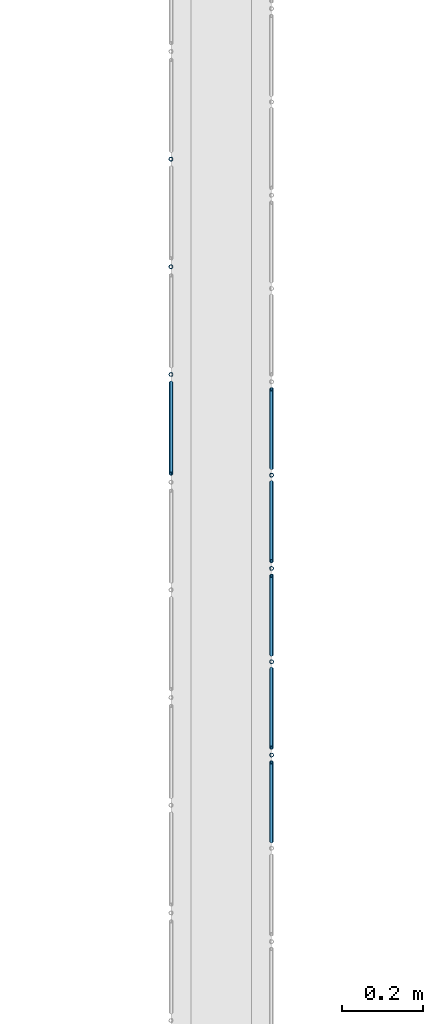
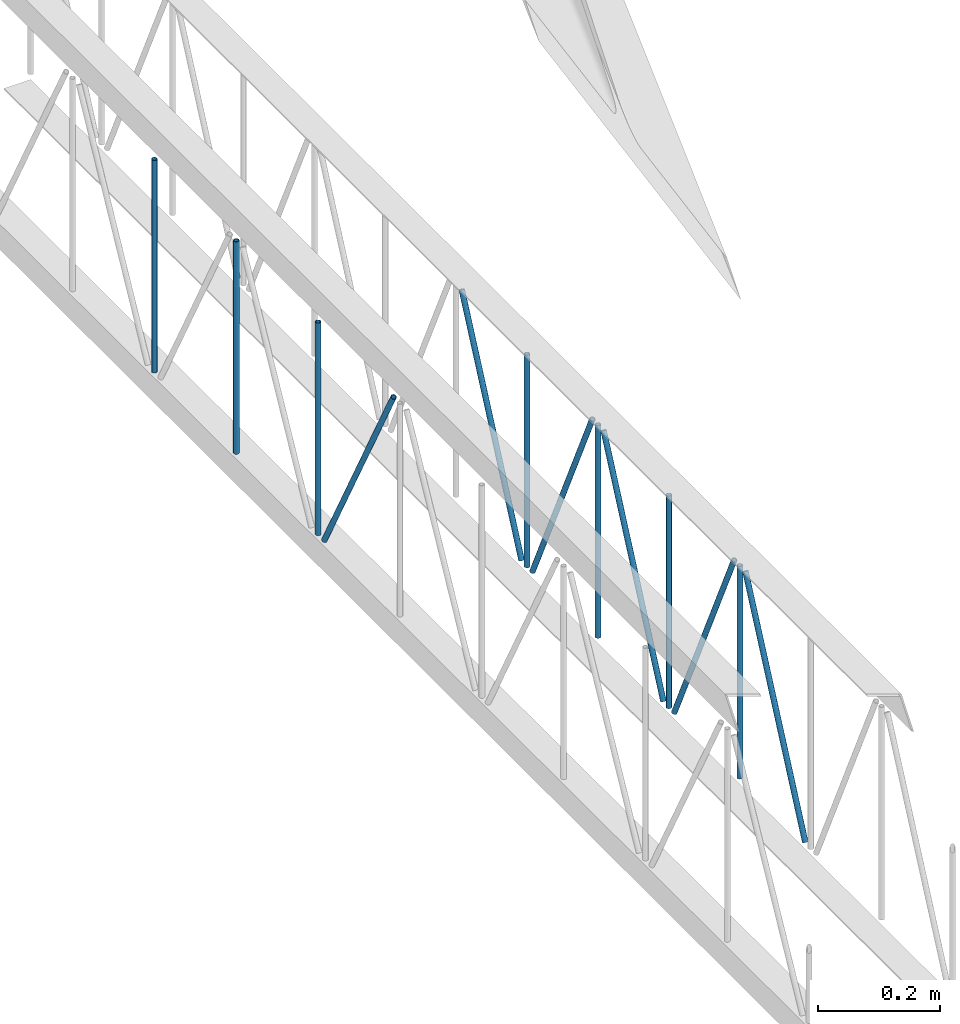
# One storey, part 15 of 153: 13 members, 2 elements without a shape of their own.
"""IFC4 building model written with IfcOpenShell, lengths in metres."""

from ifc_helpers import new_model, entity, si_unit, converted_unit, derived_unit, direction, frame, origin, place, context, subcontext, project, spatial, arc, indexed_curve, outline, extrude, source, transform, mapped, material, type_object, type_shapes, element, aggregate, save


model = new_model("IFC4")

# Units and contexts
model_context = context("Model", 3, precision=1e-05, world=origin(), true_north=direction((6.123031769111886e-17, 1.0)))
body_context = subcontext(model_context, "Body", "Model", "MODEL_VIEW")
ifc_project = project(units=[si_unit("LENGTHUNIT", "METRE"), si_unit("AREAUNIT", "SQUARE_METRE"), si_unit("VOLUMEUNIT", "CUBIC_METRE"), converted_unit("PLANEANGLEUNIT", "DEGREE", entity("IfcRatioMeasure", 0.017453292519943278), si_unit("PLANEANGLEUNIT", "RADIAN"), dimensions=[0, 0, 0, 0, 0, 0, 0]), si_unit("MASSUNIT", "GRAM", prefix="KILO"), derived_unit("MASSDENSITYUNIT", [(si_unit("MASSUNIT", "GRAM", prefix="KILO"), 1), (si_unit("LENGTHUNIT", "METRE"), -3)]), derived_unit("MOMENTOFINERTIAUNIT", [(si_unit("LENGTHUNIT", "METRE"), 4)]), si_unit("TIMEUNIT", "SECOND"), si_unit("FREQUENCYUNIT", "HERTZ"), si_unit("THERMODYNAMICTEMPERATUREUNIT", "DEGREE_CELSIUS"), derived_unit("THERMALTRANSMITTANCEUNIT", [(si_unit("MASSUNIT", "GRAM", prefix="KILO"), 1), (si_unit("THERMODYNAMICTEMPERATUREUNIT", "KELVIN"), -1), (si_unit("TIMEUNIT", "SECOND"), -3)]), derived_unit("VOLUMETRICFLOWRATEUNIT", [(si_unit("LENGTHUNIT", "METRE"), 3), (si_unit("TIMEUNIT", "SECOND"), -1)]), derived_unit("MASSFLOWRATEUNIT", [(si_unit("MASSUNIT", "GRAM", prefix="KILO"), 1), (si_unit("TIMEUNIT", "SECOND"), -1)]), derived_unit("ROTATIONALFREQUENCYUNIT", [(si_unit("TIMEUNIT", "SECOND"), -1)]), si_unit("ELECTRICCURRENTUNIT", "AMPERE"), si_unit("ELECTRICVOLTAGEUNIT", "VOLT"), si_unit("POWERUNIT", "WATT"), si_unit("FORCEUNIT", "NEWTON", prefix="KILO"), si_unit("ILLUMINANCEUNIT", "LUX"), si_unit("LUMINOUSFLUXUNIT", "LUMEN"), si_unit("LUMINOUSINTENSITYUNIT", "CANDELA"), derived_unit("USERDEFINED", [(si_unit("MASSUNIT", "GRAM", prefix="KILO"), -1), (si_unit("LENGTHUNIT", "METRE"), -2), (si_unit("TIMEUNIT", "SECOND"), 3), (si_unit("LUMINOUSFLUXUNIT", "LUMEN"), 1)]), derived_unit("SOUNDPOWERUNIT", [(si_unit("MASSUNIT", "GRAM", prefix="KILO"), 1), (si_unit("LENGTHUNIT", "METRE"), 2), (si_unit("TIMEUNIT", "SECOND"), -3)]), derived_unit("SOUNDPRESSUREUNIT", [(si_unit("MASSUNIT", "GRAM", prefix="KILO"), 1), (si_unit("LENGTHUNIT", "METRE"), -1), (si_unit("TIMEUNIT", "SECOND"), -2)]), derived_unit("LINEARVELOCITYUNIT", [(si_unit("LENGTHUNIT", "METRE"), 1), (si_unit("TIMEUNIT", "SECOND"), -1)]), si_unit("PRESSUREUNIT", "PASCAL"), derived_unit("USERDEFINED", [(si_unit("LENGTHUNIT", "METRE"), -2), (si_unit("MASSUNIT", "GRAM", prefix="KILO"), 1), (si_unit("TIMEUNIT", "SECOND"), -2)]), derived_unit("LINEARFORCEUNIT", [(si_unit("MASSUNIT", "GRAM", prefix="KILO"), 1), (si_unit("LENGTHUNIT", "METRE"), 1), (si_unit("TIMEUNIT", "SECOND"), -2), (si_unit("LENGTHUNIT", "METRE"), -1)]), derived_unit("PLANARFORCEUNIT", [(si_unit("MASSUNIT", "GRAM", prefix="KILO"), 1), (si_unit("LENGTHUNIT", "METRE"), 1), (si_unit("TIMEUNIT", "SECOND"), -2), (si_unit("LENGTHUNIT", "METRE"), -2)])], contexts=[model_context])

# Site, building, storey
site_placement = place(None, origin())
site = spatial("IfcSite", under=ifc_project, at=site_placement, Name="Superficie", CompositionType="ELEMENT")
building_placement = place(site_placement, origin())
building = spatial("IfcBuilding", under=site, at=building_placement, CompositionType="ELEMENT")
storey_placement = place(building_placement, frame((0.0, 0.0, 3.5999999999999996)))
storey = spatial("IfcBuildingStorey", under=building, at=storey_placement, Name="Nivel 1", CompositionType="ELEMENT", Elevation=3.5999999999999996)

# Assembly, members
assembly_1_placement = place(storey_placement, origin())
assembly_1 = element("IfcElementAssembly", 1, at=assembly_1_placement, inside=storey, Name="Viga de celosia 13:Viga de celosia 13", ObjectType="Viga de celosia 13:Viga de celosia 13", AssemblyPlace="NOTDEFINED", PredefinedType="TRUSS")
ifc_material = material(Name="Metal - Calibre delgado", Category="Metal")
member_type_1 = type_object("IfcMemberType", Name="HSS-Tubo estructural redondo:HSS 0.01", PredefinedType="BRACE", material=ifc_material)
shared_shape_1 = source(origin(), body_context, "Body", "SweptSolid", [
    extrude(outline(indexed_curve([(-0.005000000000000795, 7.502054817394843e-18), (-9.800269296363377e-18, -0.005000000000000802), (0.005000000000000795, -7.502054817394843e-18), (8.07772287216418e-18, 0.005000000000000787)], segments=[arc(1, 2, 3), arc(3, 4, 1)], self_intersect=False), holes=[indexed_curve([(0.003999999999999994, 7.222511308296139e-17), (6.910645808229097e-17, -0.004000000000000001), (-0.003999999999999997, -1.8650054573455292e-17), (-2.9156497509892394e-17, 0.003999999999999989)], segments=[arc(1, 2, 3), arc(3, 4, 1)], self_intersect=False)]), frame((-0.21200000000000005, 0.0, 0.0), z_axis=(1.0, 0.0, 0.0), x_axis=(0.0, 1.0, 0.0)), (0.0, 0.0, 1.0), 0.4240000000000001),
])
type_shapes(member_type_1, [shared_shape_1])
member_1_placement = place(assembly_1_placement, frame((-18.703200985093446, -11.071002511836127, 0.24999999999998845), z_axis=(0.0, 1.0, 0.0), x_axis=(0.0, 0.0, 1.0)))
member_1 = element("IfcMember", 2, at=member_1_placement, type_object=member_type_1, material=ifc_material, Name="HSS-Tubo estructural redondo:HSS 0.01", ObjectType="HSS-Tubo estructural redondo:HSS 0.01", PredefinedType="BRACE", context=body_context, shape_type="MappedRepresentation", body=[
    mapped(shared_shape_1, transform((0.0, 0.0, 0.0), scale=1.0)),
])
member_2_placement = place(assembly_1_placement, frame((-18.703200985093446, -10.803502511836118, 0.25), z_axis=(0.0, 1.0, 0.0), x_axis=(0.0, 0.0, 1.0)))
member_2 = element("IfcMember", 3, at=member_2_placement, type_object=member_type_1, material=ifc_material, Name="HSS-Tubo estructural redondo:HSS 0.01", ObjectType="HSS-Tubo estructural redondo:HSS 0.01", PredefinedType="BRACE", context=body_context, shape_type="MappedRepresentation", body=[
    mapped(shared_shape_1, transform((0.0, 0.0, 0.0), scale=1.0)),
])
member_3_placement = place(assembly_1_placement, frame((-18.703200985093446, -10.536002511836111, 0.25), z_axis=(0.0, 1.0, 0.0), x_axis=(0.0, 0.0, 1.0)))
member_3 = element("IfcMember", 4, at=member_3_placement, type_object=member_type_1, material=ifc_material, Name="HSS-Tubo estructural redondo:HSS 0.01", ObjectType="HSS-Tubo estructural redondo:HSS 0.01", PredefinedType="BRACE", context=body_context, shape_type="MappedRepresentation", body=[
    mapped(shared_shape_1, transform((0.0, 0.0, 0.0), scale=1.0)),
])

assembly_2_placement = place(storey_placement, origin())
assembly_2 = element("IfcElementAssembly", 5, at=assembly_2_placement, inside=storey, Name="Viga de celosia 13:Viga de celosia 13", ObjectType="Viga de celosia 13:Viga de celosia 13", AssemblyPlace="NOTDEFINED", PredefinedType="TRUSS")
member_type_2 = type_object("IfcMemberType", Name="HSS-Tubo estructural redondo:HSS 0.01", PredefinedType="BRACE", material=ifc_material)
shared_shape_2 = source(origin(), body_context, "Body", "SweptSolid", [
    extrude(outline(indexed_curve([(-0.005000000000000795, 2.0824731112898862e-17), (-2.3122945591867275e-17, -0.005000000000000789), (0.005000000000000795, -2.08247311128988e-17), (2.14003991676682e-17, 0.005000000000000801)], segments=[arc(1, 2, 3), arc(3, 4, 1)], self_intersect=False), holes=[indexed_curve([(0.003999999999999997, -1.3094283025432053e-17), (-1.531427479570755e-18, -0.003999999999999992), (-0.004, 4.0098531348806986e-17), (4.1481388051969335e-17, 0.0039999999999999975)], segments=[arc(1, 2, 3), arc(3, 4, 1)], self_intersect=False)]), frame((-0.21200000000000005, 0.0, 0.0), z_axis=(1.0, 0.0, 0.0), x_axis=(0.0, -1.0, 0.0)), (0.0, 0.0, 1.0), 0.4240000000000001),
])
type_shapes(member_type_2, [shared_shape_2])
member_4_placement = place(assembly_2_placement, frame((-18.453200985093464, -12.016359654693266, 0.25), z_axis=(0.0, 1.0, 0.0), x_axis=(0.0, 0.0, 1.0)))
member_4 = element("IfcMember", 6, at=member_4_placement, type_object=member_type_2, material=ifc_material, Name="HSS-Tubo estructural redondo:HSS 0.01", ObjectType="HSS-Tubo estructural redondo:HSS 0.01", PredefinedType="BRACE", context=body_context, shape_type="MappedRepresentation", body=[
    mapped(shared_shape_2, transform((0.0, 0.0, 0.0), scale=1.0)),
])
member_5_placement = place(assembly_2_placement, frame((-18.453200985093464, -11.784573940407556, 0.25), z_axis=(0.0, 1.0, 0.0), x_axis=(0.0, 0.0, 1.0)))
member_5 = element("IfcMember", 7, at=member_5_placement, type_object=member_type_2, material=ifc_material, Name="HSS-Tubo estructural redondo:HSS 0.01", ObjectType="HSS-Tubo estructural redondo:HSS 0.01", PredefinedType="BRACE", context=body_context, shape_type="MappedRepresentation", body=[
    mapped(shared_shape_2, transform((0.0, 0.0, 0.0), scale=1.0)),
])
member_6_placement = place(assembly_2_placement, frame((-18.453200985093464, -11.552788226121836, 0.25), z_axis=(0.0, 1.0, 0.0), x_axis=(0.0, 0.0, 1.0)))
member_6 = element("IfcMember", 8, at=member_6_placement, type_object=member_type_2, material=ifc_material, Name="HSS-Tubo estructural redondo:HSS 0.01", ObjectType="HSS-Tubo estructural redondo:HSS 0.01", PredefinedType="BRACE", context=body_context, shape_type="MappedRepresentation", body=[
    mapped(shared_shape_2, transform((0.0, 0.0, 0.0), scale=1.0)),
])
member_7_placement = place(assembly_2_placement, frame((-18.453200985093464, -11.32100251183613, 0.24999999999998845), z_axis=(0.0, 1.0, 0.0), x_axis=(0.0, 0.0, 1.0)))
member_7 = element("IfcMember", 9, at=member_7_placement, type_object=member_type_2, material=ifc_material, Name="HSS-Tubo estructural redondo:HSS 0.01", ObjectType="HSS-Tubo estructural redondo:HSS 0.01", PredefinedType="BRACE", context=body_context, shape_type="MappedRepresentation", body=[
    mapped(shared_shape_2, transform((0.0, 0.0, 0.0), scale=1.0)),
])

# Member
member_type_3 = type_object("IfcMemberType", Name="HSS-Tubo estructural redondo:HSS 0.01", PredefinedType="BRACE", material=ifc_material)
shared_shape_3 = source(origin(), body_context, "Body", "SweptSolid", [
    extrude(outline(indexed_curve([(-0.005000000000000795, 7.502054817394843e-18), (-9.800269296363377e-18, -0.005000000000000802), (0.005000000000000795, -7.502054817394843e-18), (8.07772287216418e-18, 0.005000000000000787)], segments=[arc(1, 2, 3), arc(3, 4, 1)], self_intersect=False), holes=[indexed_curve([(0.003999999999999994, 7.222511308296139e-17), (6.910645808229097e-17, -0.004000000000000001), (-0.003999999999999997, -1.8650054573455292e-17), (-2.9156497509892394e-17, 0.003999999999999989)], segments=[arc(1, 2, 3), arc(3, 4, 1)], self_intersect=False)]), frame((-0.23950000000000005, 0.0, 0.0), z_axis=(1.0, 0.0, 0.0), x_axis=(0.0, 1.0, 0.0)), (0.0, 0.0, 1.0), 0.4790000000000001),
])
type_shapes(member_type_3, [shared_shape_3])
member_8_placement = place(assembly_1_placement, frame((-18.703200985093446, -11.204752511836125, 0.2500000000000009), z_axis=(0.0, -0.8817419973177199, -0.47173196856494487), x_axis=(0.0, 0.47173196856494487, -0.8817419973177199)))
member_8 = element("IfcMember", 10, at=member_8_placement, type_object=member_type_3, material=ifc_material, Name="HSS-Tubo estructural redondo:HSS 0.01", ObjectType="HSS-Tubo estructural redondo:HSS 0.01", PredefinedType="BRACE", context=body_context, shape_type="MappedRepresentation", body=[
    mapped(shared_shape_3, transform((0.0, 0.0, 0.0), scale=1.0)),
])

aggregate(assembly_1, [member_1, member_2, member_3, member_8])

member_type_4 = type_object("IfcMemberType", Name="HSS-Tubo estructural redondo:HSS 0.01", PredefinedType="BRACE", material=ifc_material)
shared_shape_4 = source(origin(), body_context, "Body", "SweptSolid", [
    extrude(outline(indexed_curve([(-0.005000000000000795, 2.0824731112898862e-17), (-2.3122945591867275e-17, -0.005000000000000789), (0.005000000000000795, -2.08247311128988e-17), (2.14003991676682e-17, 0.005000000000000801)], segments=[arc(1, 2, 3), arc(3, 4, 1)], self_intersect=False), holes=[indexed_curve([(0.003999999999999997, -1.3094283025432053e-17), (-1.531427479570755e-18, -0.003999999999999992), (-0.004, 4.0098531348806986e-17), (4.1481388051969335e-17, 0.0039999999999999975)], segments=[arc(1, 2, 3), arc(3, 4, 1)], self_intersect=False)]), frame((-0.2325, 0.0, 0.0), z_axis=(1.0, 0.0, 0.0), x_axis=(0.0, -1.0, 0.0)), (0.0, 0.0, 1.0), 0.465),
])
type_shapes(member_type_4, [shared_shape_4])
member_9_placement = place(assembly_2_placement, frame((-18.453200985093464, -12.132252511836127, 0.2499999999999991), z_axis=(0.0, 0.9072563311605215, -0.4205781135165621), x_axis=(0.0, 0.4205781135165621, 0.9072563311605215)))
member_9 = element("IfcMember", 11, at=member_9_placement, type_object=member_type_4, material=ifc_material, Name="HSS-Tubo estructural redondo:HSS 0.01", ObjectType="HSS-Tubo estructural redondo:HSS 0.01", PredefinedType="BRACE", context=body_context, shape_type="MappedRepresentation", body=[
    mapped(shared_shape_4, transform((0.0, 0.0, 0.0), scale=1.0)),
])

member_10_placement = place(assembly_2_placement, frame((-18.453200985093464, -11.900466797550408, 0.25), z_axis=(0.0, -0.907256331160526, -0.4205781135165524), x_axis=(0.0, 0.4205781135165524, -0.907256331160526)))
member_10 = element("IfcMember", 12, at=member_10_placement, type_object=member_type_4, material=ifc_material, Name="HSS-Tubo estructural redondo:HSS 0.01", ObjectType="HSS-Tubo estructural redondo:HSS 0.01", PredefinedType="BRACE", context=body_context, shape_type="MappedRepresentation", body=[
    mapped(shared_shape_4, transform((0.0, 0.0, 0.0), scale=1.0)),
])

member_11_placement = place(assembly_2_placement, frame((-18.453200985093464, -11.668681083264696, 0.2500000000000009), z_axis=(0.0, 0.90725633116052, -0.4205781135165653), x_axis=(0.0, 0.4205781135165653, 0.90725633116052)))
member_11 = element("IfcMember", 13, at=member_11_placement, type_object=member_type_4, material=ifc_material, Name="HSS-Tubo estructural redondo:HSS 0.01", ObjectType="HSS-Tubo estructural redondo:HSS 0.01", PredefinedType="BRACE", context=body_context, shape_type="MappedRepresentation", body=[
    mapped(shared_shape_4, transform((0.0, 0.0, 0.0), scale=1.0)),
])

member_12_placement = place(assembly_2_placement, frame((-18.453200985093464, -11.43689536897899, 0.2499999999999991), z_axis=(0.0, -0.9072563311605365, -0.4205781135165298), x_axis=(0.0, 0.4205781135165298, -0.9072563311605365)))
member_12 = element("IfcMember", 14, at=member_12_placement, type_object=member_type_4, material=ifc_material, Name="HSS-Tubo estructural redondo:HSS 0.01", ObjectType="HSS-Tubo estructural redondo:HSS 0.01", PredefinedType="BRACE", context=body_context, shape_type="MappedRepresentation", body=[
    mapped(shared_shape_4, transform((0.0, 0.0, 0.0), scale=1.0)),
])

member_13_placement = place(assembly_2_placement, frame((-18.453200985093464, -11.205109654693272, 0.25), z_axis=(0.0, 0.907256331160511, -0.42057811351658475), x_axis=(0.0, 0.42057811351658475, 0.907256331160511)))
member_13 = element("IfcMember", 15, at=member_13_placement, type_object=member_type_4, material=ifc_material, Name="HSS-Tubo estructural redondo:HSS 0.01", ObjectType="HSS-Tubo estructural redondo:HSS 0.01", PredefinedType="BRACE", context=body_context, shape_type="MappedRepresentation", body=[
    mapped(shared_shape_4, transform((0.0, 0.0, 0.0), scale=1.0)),
])

aggregate(assembly_2, [member_4, member_5, member_6, member_7, member_9, member_10, member_11, member_12, member_13])

save(model, "model.ifc")
